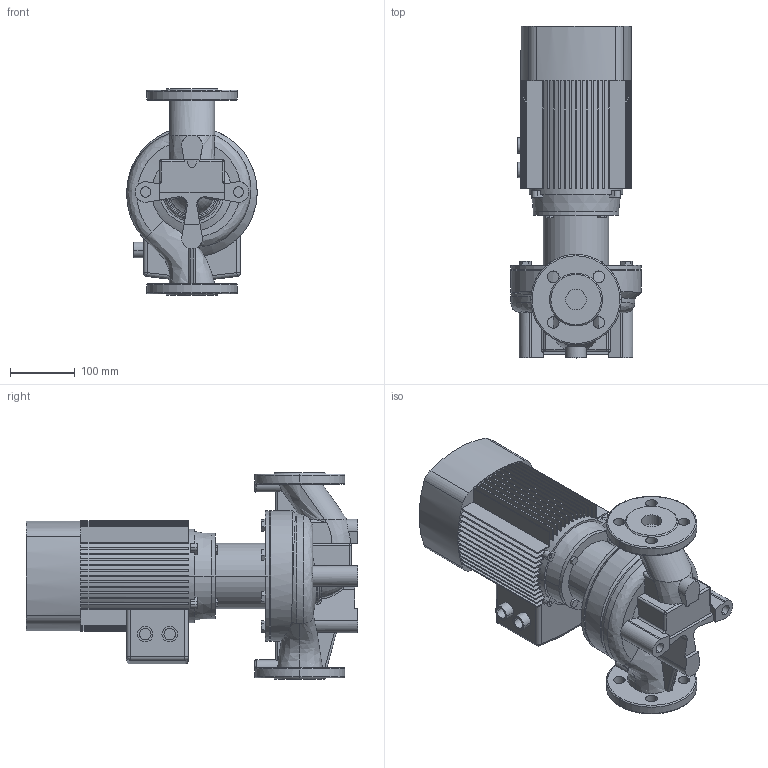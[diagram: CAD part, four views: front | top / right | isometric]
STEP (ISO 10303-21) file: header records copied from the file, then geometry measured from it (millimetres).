
FILE_DESCRIPTION (( 'STEP AP203' ), '1' );
FILE_NAME ('TD32-26G_2.STEP', '2022-05-02T13:25:03', ( '' ), ( '' ), 'SwSTEP 2.0', 'SolidWorks 2019', '' );
FILE_SCHEMA (( 'CONFIG_CONTROL_DESIGN' ));
Length unit declared in the file: millimetre
Products named in the file (4): ED_B14_YE2-90L-2 (2.2); TD32-26G_2; Fon_32_TD32-26G_2; Pr_ch 32_TD32-26G_2
Assembly tree (3 placements, depth 2):
  TD32-26G_2
    Pr_ch 32_TD32-26G_2
    Fon_32_TD32-26G_2
    ED_B14_YE2-90L-2 (2.2)
Bounding box: 202.08 x 514 x 320 mm (x, y, z)
Volume: 10740678 mm3; surface area: 867399.6 mm2
Topology: 3 solids, 4 shells, 646 faces, 1752 edges, 1145 vertices
Faces by surface type: plane 392, cylinder 167, bspline 36, torus 30, cone 11, sphere 10
Entity records: 26666 total; most frequent: CARTESIAN_POINT 9896, ORIENTED_EDGE 3500, DIRECTION 3382, EDGE_CURVE 1750, AXIS2_PLACEMENT_3D 1211, VERTEX_POINT 1145, VECTOR 960, LINE 960
